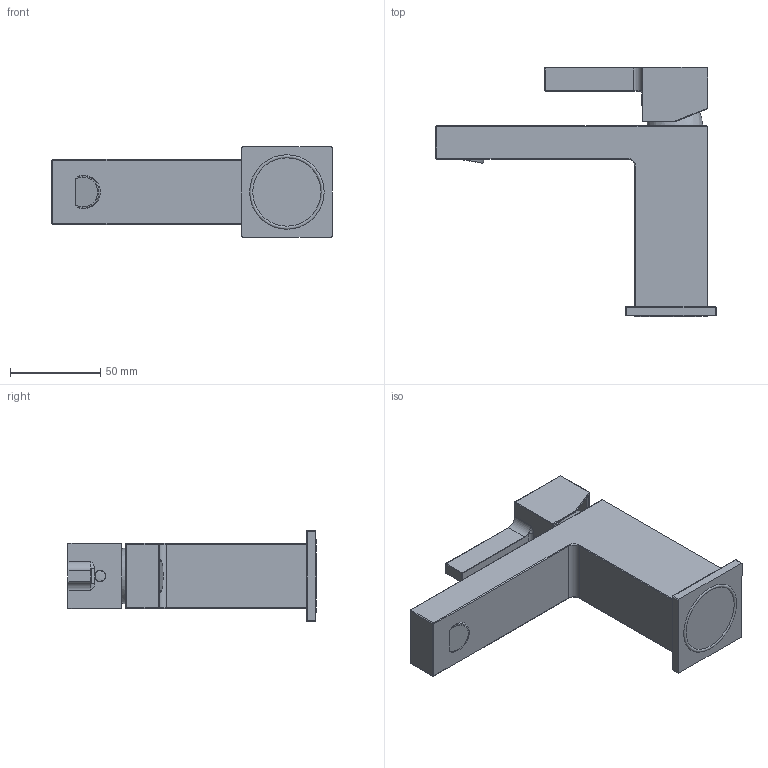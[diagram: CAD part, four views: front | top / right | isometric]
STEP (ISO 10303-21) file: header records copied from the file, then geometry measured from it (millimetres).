
FILE_DESCRIPTION(/* description */ (''),/* implementation_level */ '2;1');
FILE_NAME(/* name */ 'X:\Utilisateurs\Simon\MZS01 3D.stp',/* time_stamp */ '2017-01-04T15:53:33-05:00',/* author */ ('simonb'),/* organization */ (''),/* preprocessor_version */ 'ST-DEVELOPER v15.6',/* originating_system */ 'Autodesk Inventor 2015',/* authorisation */ '');
FILE_SCHEMA (('AUTOMOTIVE_DESIGN { 1 0 10303 214 3 1 1 }'));
Length unit declared in the file: millimetre
Products named in the file (1): MZS01_Shrinkwrap_2
Bounding box: 155 x 137.7 x 50 mm (x, y, z)
Volume: 252449.5 mm3; surface area: 45875.3 mm2
Topology: 1 solids, 1 shells, 221 faces, 516 edges, 292 vertices
Faces by surface type: cylinder 94, plane 55, sphere 32, torus 22, bspline 14, cone 4
Entity records: 7064 total; most frequent: CARTESIAN_POINT 1856, DIRECTION 1086, ORIENTED_EDGE 1002, EDGE_CURVE 501, AXIS2_PLACEMENT_3D 432, VERTEX_POINT 292, EDGE_LOOP 231, LINE 222
